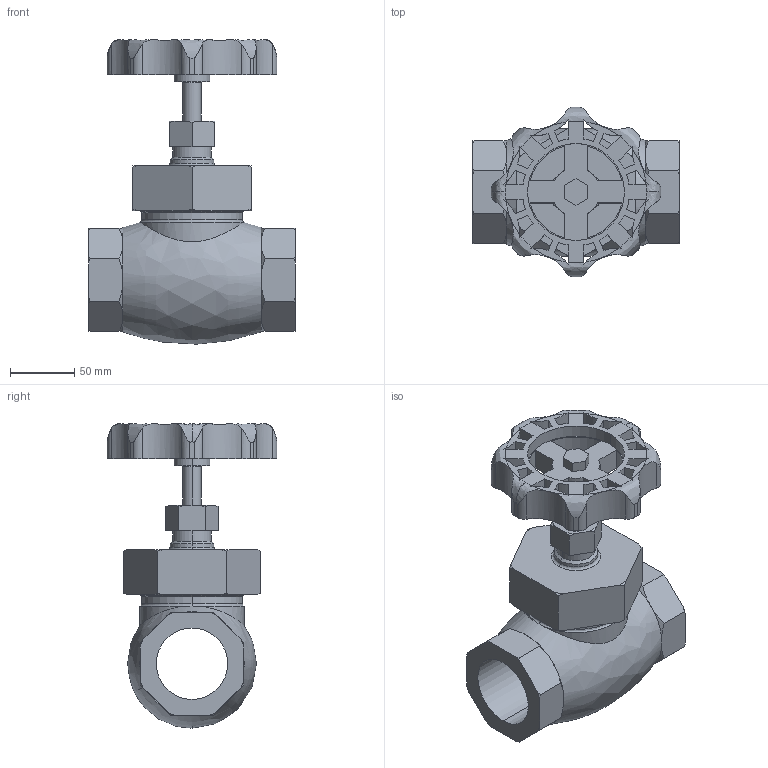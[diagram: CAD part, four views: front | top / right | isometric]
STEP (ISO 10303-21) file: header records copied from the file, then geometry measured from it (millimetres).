
FILE_DESCRIPTION( (''), '2;1');
FILE_NAME ('PC1027.9568.GLV-16 50A1_19783.stp','2025-07-28T11:52:25',(''),(''),'spGate 19.8.4 (****-****-****-****)','','');
FILE_SCHEMA (('AUTOMOTIVE_DESIGN'));
Length unit declared in the file: millimetre
Bounding box: 160 x 131.74 x 235.97 mm (x, y, z)
Volume: 1161003.8 mm3; surface area: 159767 mm2
Topology: 1 solids, 1 shells, 263 faces, 754 edges, 486 vertices
Faces by surface type: plane 102, cylinder 89, bspline 72
Entity records: 15774 total; most frequent: CARTESIAN_POINT 3610, ORIENTED_EDGE 1508, DIRECTION 1182, COLOUR_RGB 1018, PRESENTATION_STYLE_ASSIGNMENT 1018, STYLED_ITEM 1018, EDGE_CURVE 754, DRAUGHTING_PRE_DEFINED_CURVE_FONT 754
